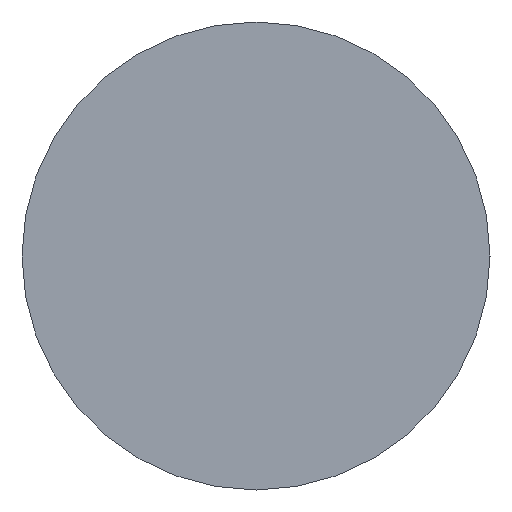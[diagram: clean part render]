
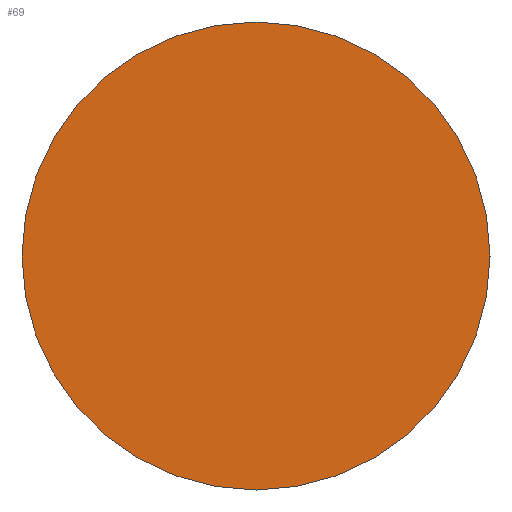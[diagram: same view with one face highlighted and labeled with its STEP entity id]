
A CAD part, left-side view. The second image highlights one B-rep face of the part: STEP entity #69.
In plain terms, the highlighted planar face has unit normal (-1, 0, 0).
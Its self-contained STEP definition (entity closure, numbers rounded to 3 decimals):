
#37 = CARTESIAN_POINT ( 'NONE',  ( -73., 0., -5. ) ) ;
#63 = DIRECTION ( 'NONE',  ( 0., 0., 1. ) ) ;
#69 = ADVANCED_FACE ( 'NONE', ( #98 ), #401, .F. ) ;
#98 = FACE_OUTER_BOUND ( 'NONE', #299, .T. ) ;
#123 = AXIS2_PLACEMENT_3D ( 'NONE', #279, #444, #63 ) ;
#135 = EDGE_CURVE ( 'NONE', #194, #179, #310, .T. ) ;
#153 = EDGE_CURVE ( 'NONE', #179, #194, #321, .T. ) ;
#179 = VERTEX_POINT ( 'NONE', #262 ) ;
#194 = VERTEX_POINT ( 'NONE', #37 ) ;
#201 = ORIENTED_EDGE ( 'NONE', *, *, #153, .T. ) ;
#211 = DIRECTION ( 'NONE',  ( 1., 0., 0. ) ) ;
#215 = DIRECTION ( 'NONE',  ( 0., 0., 1. ) ) ;
#247 = DIRECTION ( 'NONE',  ( -1., 0., 0. ) ) ;
#251 = CARTESIAN_POINT ( 'NONE',  ( -73., 0., 0. ) ) ;
#262 = CARTESIAN_POINT ( 'NONE',  ( -73., 0., 5. ) ) ;
#279 = CARTESIAN_POINT ( 'NONE',  ( -73., 0., 0. ) ) ;
#299 = EDGE_LOOP ( 'NONE', ( #201, #426 ) ) ;
#310 = CIRCLE ( 'NONE', #123, 5. ) ;
#320 = CARTESIAN_POINT ( 'NONE',  ( -73., 5., 0. ) ) ;
#321 = CIRCLE ( 'NONE', #405, 5. ) ;
#379 = AXIS2_PLACEMENT_3D ( 'NONE', #320, #211, #478 ) ;
#401 = PLANE ( 'NONE',  #379 ) ;
#405 = AXIS2_PLACEMENT_3D ( 'NONE', #251, #247, #215 ) ;
#426 = ORIENTED_EDGE ( 'NONE', *, *, #135, .T. ) ;
#444 = DIRECTION ( 'NONE',  ( -1., 0., 0. ) ) ;
#478 = DIRECTION ( 'NONE',  ( 0., 0., -1. ) ) ;
